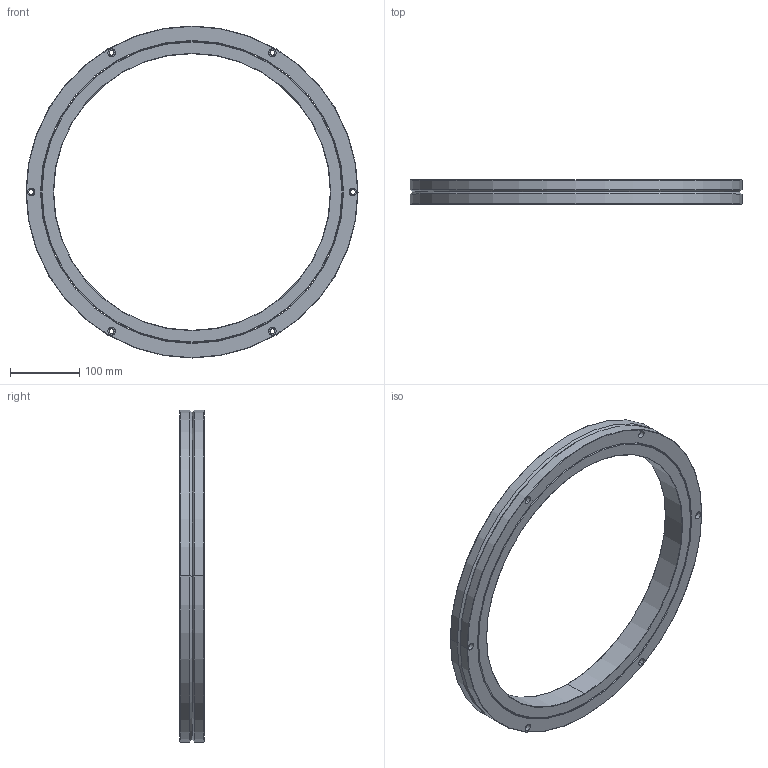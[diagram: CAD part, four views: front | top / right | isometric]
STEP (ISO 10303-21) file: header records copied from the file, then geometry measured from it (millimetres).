
FILE_DESCRIPTION((''),'2;1');
FILE_NAME('RB40035','2015-08-27T',('Administrator'),(''),'PRO/ENGINEER BY PARAMETRIC TECHNOLOGY CORPORATION, 2010180','PRO/ENGINEER BY PARAMETRIC TECHNOLOGY CORPORATION, 2010180','');
FILE_SCHEMA(('AUTOMOTIVE_DESIGN_CC2 { 1 2 10303 214 -1 1 5 2 }'));
Length unit declared in the file: millimetre
Products named in the file (1): RB40035
Bounding box: 480 x 35 x 480 mm (x, y, z)
Volume: 1659705.9 mm3; surface area: 345856.9 mm2
Topology: 2 solids, 2 shells, 104 faces, 220 edges, 138 vertices
Faces by surface type: cylinder 62, plane 22, cone 12, torus 8
Entity records: 2965 total; most frequent: DIRECTION 574, CARTESIAN_POINT 462, ORIENTED_EDGE 440, AXIS2_PLACEMENT_3D 250, EDGE_CURVE 220, CIRCLE 146, VERTEX_POINT 138, EDGE_LOOP 138
